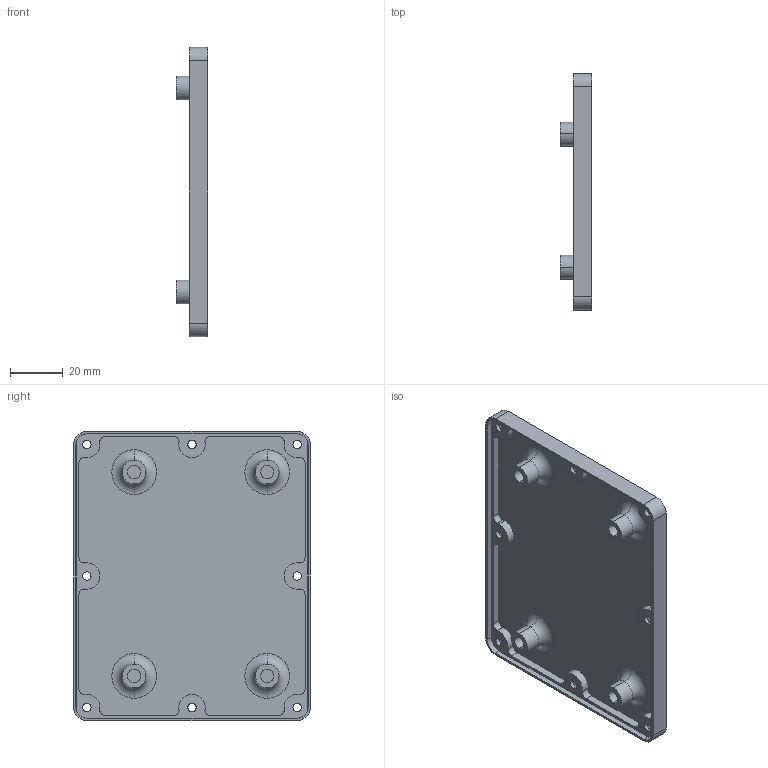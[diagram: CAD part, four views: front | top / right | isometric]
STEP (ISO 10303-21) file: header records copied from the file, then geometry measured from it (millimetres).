
FILE_DESCRIPTION (( 'STEP AP203' ), '1' );
FILE_NAME ('Lid Function Gen.STEP', '2023-12-03T07:25:43', ( '' ), ( '' ), 'SwSTEP 2.0', 'SolidWorks 2023', '' );
FILE_SCHEMA (( 'CONFIG_CONTROL_DESIGN' ));
Length unit declared in the file: millimetre
Products named in the file (1): Lid Function Gen
Bounding box: 12 x 90 x 110 mm (x, y, z)
Volume: 25611.7 mm3; surface area: 26572.2 mm2
Topology: 1 solids, 1 shells, 135 faces, 337 edges, 222 vertices
Faces by surface type: cylinder 87, plane 36, torus 8, cone 4
Entity records: 4234 total; most frequent: DIRECTION 807, CARTESIAN_POINT 695, ORIENTED_EDGE 674, EDGE_CURVE 337, AXIS2_PLACEMENT_3D 334, VERTEX_POINT 222, CIRCLE 198, EDGE_LOOP 169
